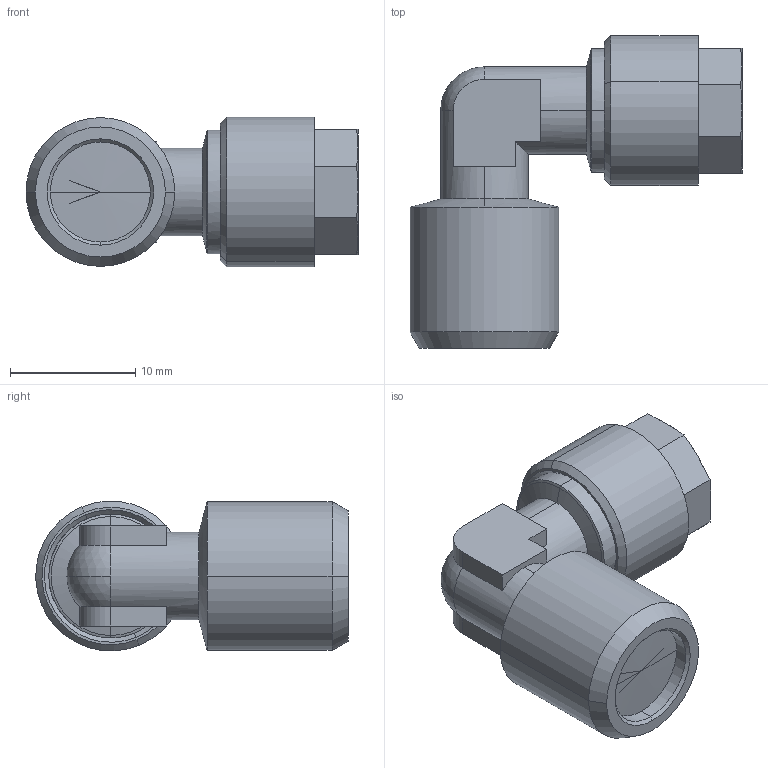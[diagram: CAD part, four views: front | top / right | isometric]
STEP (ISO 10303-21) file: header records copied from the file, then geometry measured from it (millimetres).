
FILE_DESCRIPTION (( 'STEP AP214' ), '1' );
FILE_NAME ('0110100001.step', '2012-09-28T13:23:27', ( '' ), ( '' ), 'SwSTEP 2.0', 'SolidWorks 2012', '' );
FILE_SCHEMA (( 'AUTOMOTIVE_DESIGN' ));
Length unit declared in the file: millimetre
Products named in the file (1): 0110100001
Bounding box: 26.55 x 24.99 x 11.99 mm (x, y, z)
Volume: 3072 mm3; surface area: 1636.3 mm2
Topology: 1 solids, 1 shells, 72 faces, 170 edges, 102 vertices
Faces by surface type: plane 27, cone 23, cylinder 16, torus 4, sphere 2
Entity records: 2886 total; most frequent: CARTESIAN_POINT 394, DIRECTION 369, ORIENTED_EDGE 336, EDGE_CURVE 168, AXIS2_PLACEMENT_3D 145, VERTEX_POINT 102, VECTOR 79, LINE 79
